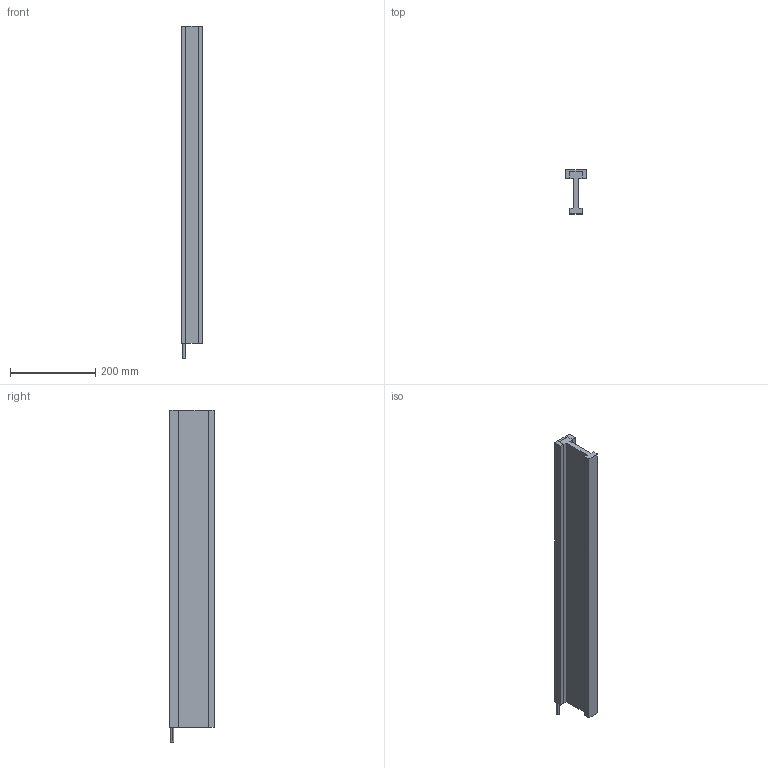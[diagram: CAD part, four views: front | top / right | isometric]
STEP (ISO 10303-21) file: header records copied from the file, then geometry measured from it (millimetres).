
FILE_DESCRIPTION (( 'STEP AP214' ), '1' );
FILE_NAME ('DX65F-C12-NH.step', '2022-09-22T03:41:47', ( '' ), ( '' ), 'SwSTEP 2.0', 'SolidWorks 2020', '' );
FILE_SCHEMA (( 'AUTOMOTIVE_DESIGN' ));
Length unit declared in the file: millimetre
Products named in the file (1): DX65F-C12-NH
Bounding box: 49 x 104 x 780 mm (x, y, z)
Volume: 1597043.7 mm3; surface area: 348805.9 mm2
Topology: 3 solids, 3 shells, 149 faces, 364 edges, 198 vertices
Faces by surface type: cylinder 64, cone 52, plane 31, torus 2
Entity records: 5671 total; most frequent: DIRECTION 742, CARTESIAN_POINT 660, ORIENTED_EDGE 624, EDGE_CURVE 312, AXIS2_PLACEMENT_3D 280, VERTEX_POINT 198, VECTOR 182, LINE 182
